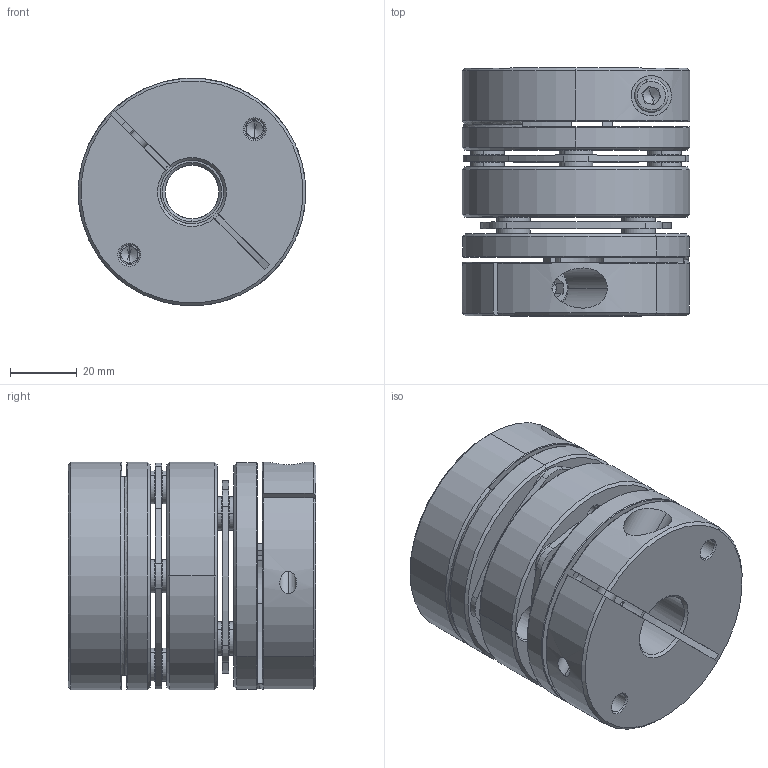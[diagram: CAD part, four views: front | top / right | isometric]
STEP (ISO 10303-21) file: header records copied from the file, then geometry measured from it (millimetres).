
FILE_DESCRIPTION (( 'STEP AP203' ), '1' );
FILE_NAME ('LD2-D68-16-19.STEP', '2021-10-26T08:17:05', ( '' ), ( '' ), 'SwSTEP 2.0', 'SolidWorks 2018', '' );
FILE_SCHEMA (( 'CONFIG_CONTROL_DESIGN' ));
Length unit declared in the file: millimetre
Products named in the file (2): LD2-D68-16-19; 錨璃102^LD2-D68
Assembly tree (1 placements, depth 2):
  LD2-D68-16-19
    錨璃102^LD2-D68
Bounding box: 68 x 74 x 68 mm (x, y, z)
Volume: 193007.1 mm3; surface area: 64981.9 mm2
Topology: 1 solids, 27 shells, 738 faces, 1724 edges, 1050 vertices
Faces by surface type: cylinder 258, cone 226, plane 224, torus 30
Entity records: 21692 total; most frequent: DIRECTION 4032, CARTESIAN_POINT 3958, ORIENTED_EDGE 3400, EDGE_CURVE 1700, AXIS2_PLACEMENT_3D 1636, VERTEX_POINT 1050, CIRCLE 894, EDGE_LOOP 874
